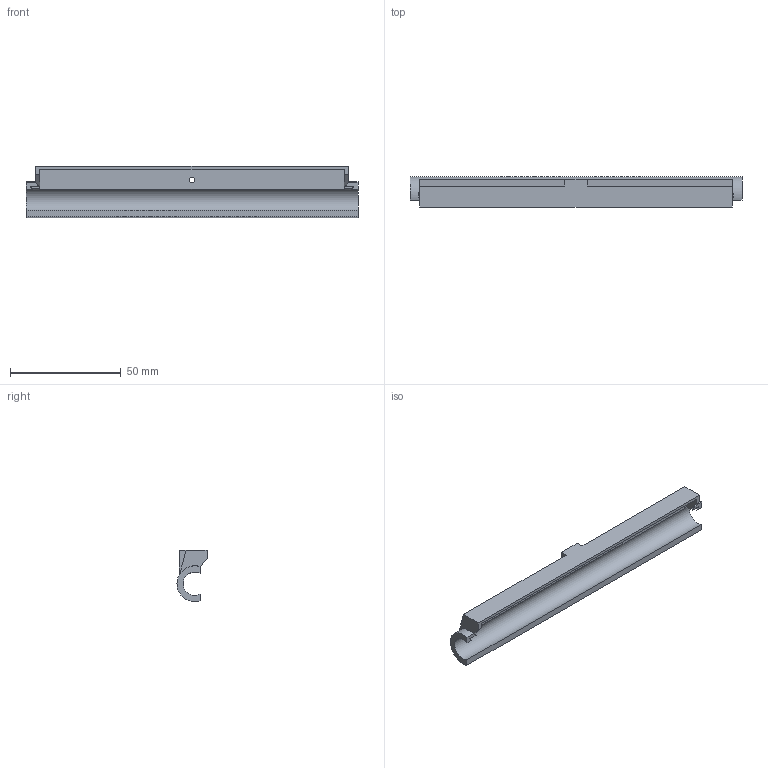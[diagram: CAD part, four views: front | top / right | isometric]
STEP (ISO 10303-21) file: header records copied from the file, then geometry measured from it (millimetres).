
FILE_DESCRIPTION(/* description */ ('STEP AP242 Edition 2','CAx-IF Rec.Pracs.---Representation and Presentation of Product Manufacturing Information (PMI)---4.0---2014-10-13','CAx-IF Rec.Pracs.---3D Tessellated Geometry---0.4---2014-09-14','2;1','CAx-IF Rec.Pracs.---User Defined Attributes---1.5---2016-08-15'),/* implementation_level */ '2;1');
FILE_NAME(/* name */ 'main - Part 47 - bottom slider housing',/* time_stamp */ '2026-11-08T20:03:45Z',/* author */ (''),/* organization */ (''),/* preprocessor_version */ 'ST-DEVELOPER v20',/* originating_system */ 'ONSHAPE BY PTC INC, 1.223',/* authorisation */ ' ');
FILE_SCHEMA (('AP242_MANAGED_MODEL_BASED_3D_ENGINEERING_MIM_LF { 1 0 10303 442 3 1 4 }'));
Length unit declared in the file: metre
Products named in the file (1): Part 47 - bottom slider housing
Bounding box: 150 x 13.6 x 23.2 mm (x, y, z)
Volume: 13906.8 mm3; surface area: 12119.3 mm2
Topology: 1 solids, 1 shells, 34 faces, 95 edges, 63 vertices
Faces by surface type: plane 25, cylinder 9
Full cylindrical faces by diameter (mm): 2.5 x1
Entity records: 1117 total; most frequent: CARTESIAN_POINT 218, ORIENTED_EDGE 186, DIRECTION 177, EDGE_CURVE 93, LINE 63, VECTOR 63, VERTEX_POINT 62, AXIS2_PLACEMENT_3D 57
